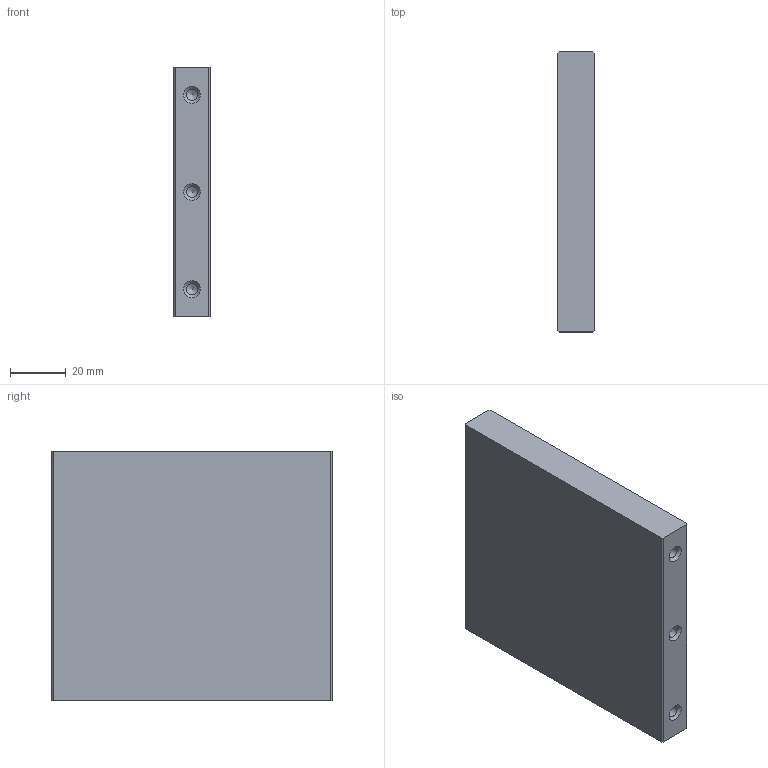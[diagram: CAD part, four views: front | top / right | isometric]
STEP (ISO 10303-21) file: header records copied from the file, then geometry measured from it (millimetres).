
FILE_DESCRIPTION(('STEP AP203'), '1');
FILE_NAME('眐珆1801.01.07.05.009 - 栺鍣罻', '', ('UNSPECIFIED'), ('UNSPECIFIED'), 'C3D Converter', 'C3D Toolkit', '');
FILE_SCHEMA(('CONFIG_CONTROL_DESIGN'));
Length unit declared in the file: millimetre
Products named in the file (1): ТППФ1801.01.07.05.009
Bounding box: 13 x 101 x 90 mm (x, y, z)
Volume: 116838.4 mm3; surface area: 24184 mm2
Topology: 1 solids, 1 shells, 28 faces, 66 edges, 40 vertices
Faces by surface type: cone 12, plane 10, cylinder 6
Full cylindrical faces by diameter (mm): 4.134 x6
Entity records: 907 total; most frequent: DIRECTION 118, CARTESIAN_POINT 105, ORIENTED_EDGE 84, AXIS2_PLACEMENT_3D 47, EDGE_LOOP 46, EDGE_CURVE 42, VERTEX_POINT 34, FACE_OUTER_BOUND 30
